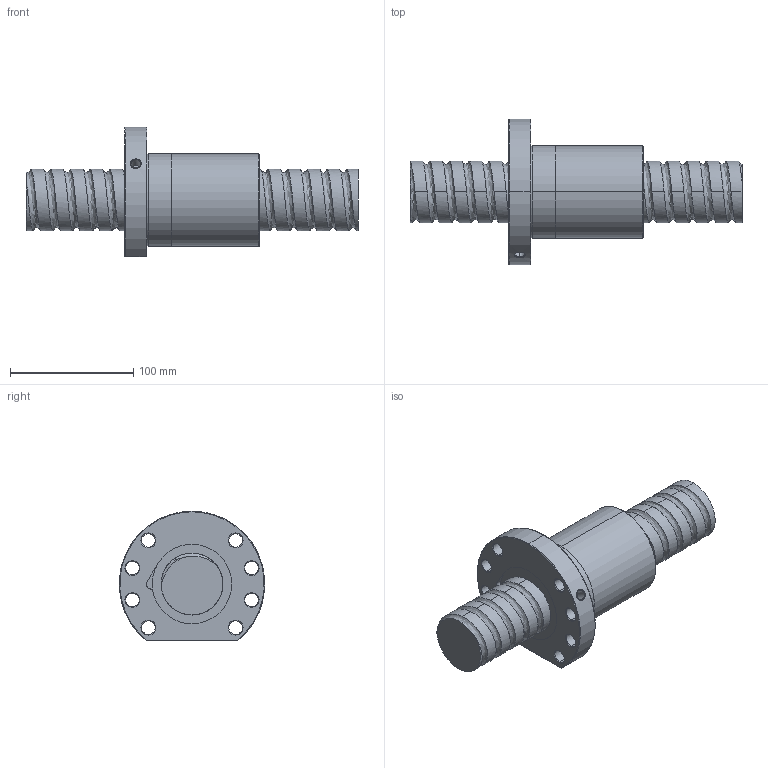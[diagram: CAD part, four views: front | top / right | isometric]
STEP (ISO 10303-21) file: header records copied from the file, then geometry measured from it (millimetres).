
FILE_DESCRIPTION (( 'STEP AP203' ), '1' );
FILE_NAME ('FSDC05016T5-F-B.STEP', '2010-06-25T12:16:11', ( 'XPAUTO' ), ( 'XPAUTO' ), 'SwSTEP 2.0', 'SolidWorks 2007', '' );
FILE_SCHEMA (( 'CONFIG_CONTROL_DESIGN' ));
Length unit declared in the file: millimetre
Products named in the file (3): FSDC05016T5-F-B.sldasm-Part-1_預設; FSDC05016T5-F-B.sldasm-Part-2_預設; FSDC05016T5-F-B
Assembly tree (2 placements, depth 2):
  FSDC05016T5-F-B
    FSDC05016T5-F-B.sldasm-Part-2_預設
    FSDC05016T5-F-B.sldasm-Part-1_預設
Bounding box: 269 x 117.69 x 105 mm (x, y, z)
Volume: 853775 mm3; surface area: 117279.8 mm2
Topology: 2 solids, 2 shells, 138 faces, 343 edges, 214 vertices
Faces by surface type: cylinder 77, cone 32, plane 19, bspline 5, torus 5
Entity records: 26999 total; most frequent: CARTESIAN_POINT 23477, ORIENTED_EDGE 686, DIRECTION 653, EDGE_CURVE 343, AXIS2_PLACEMENT_3D 266, VERTEX_POINT 214, EDGE_LOOP 163, FACE_OUTER_BOUND 138
